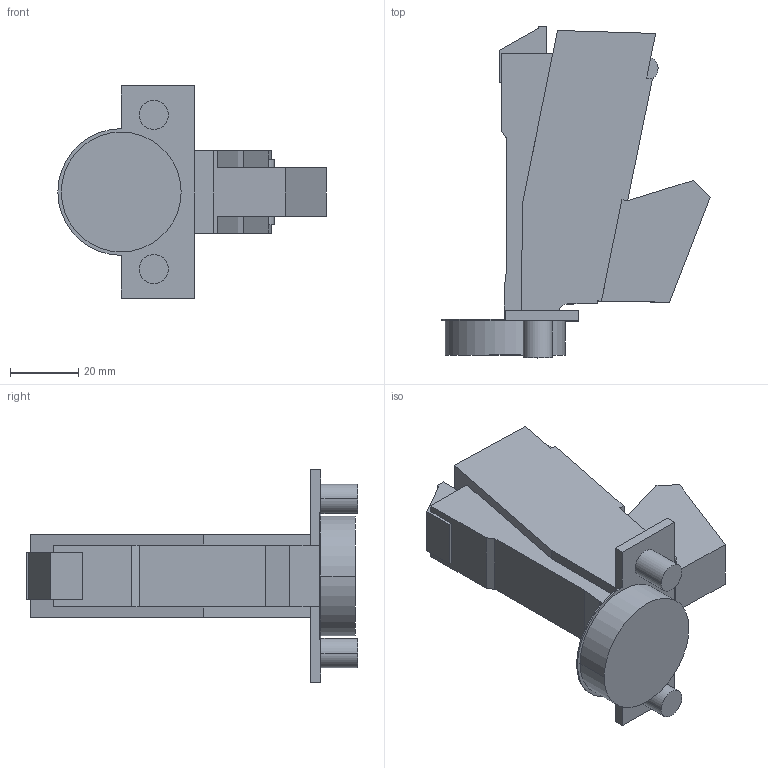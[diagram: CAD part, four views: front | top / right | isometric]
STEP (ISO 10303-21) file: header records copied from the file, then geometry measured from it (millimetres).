
FILE_DESCRIPTION (( 'STEP AP214' ), '1' );
FILE_NAME ('Scharnier T Click-on 160° B_BB, K03_Dübel - Neu -.step', '2019-09-17T09:17:43', ( '' ), ( '' ), 'SwSTEP 2.0', 'SolidWorks 2019', '' );
FILE_SCHEMA (( 'AUTOMOTIVE_DESIGN' ));
Length unit declared in the file: millimetre
Products named in the file (1): Scharnier T Click-on 160° B_BB, K03_Dübel - Neu -
Bounding box: 78.34 x 96.89 x 62 mm (x, y, z)
Volume: 92636.7 mm3; surface area: 19206.2 mm2
Topology: 1 solids, 1 shells, 66 faces, 173 edges, 114 vertices
Faces by surface type: plane 53, cylinder 13
Entity records: 2045 total; most frequent: CARTESIAN_POINT 354, ORIENTED_EDGE 346, DIRECTION 333, EDGE_CURVE 173, VECTOR 147, LINE 147, VERTEX_POINT 114, AXIS2_PLACEMENT_3D 93
